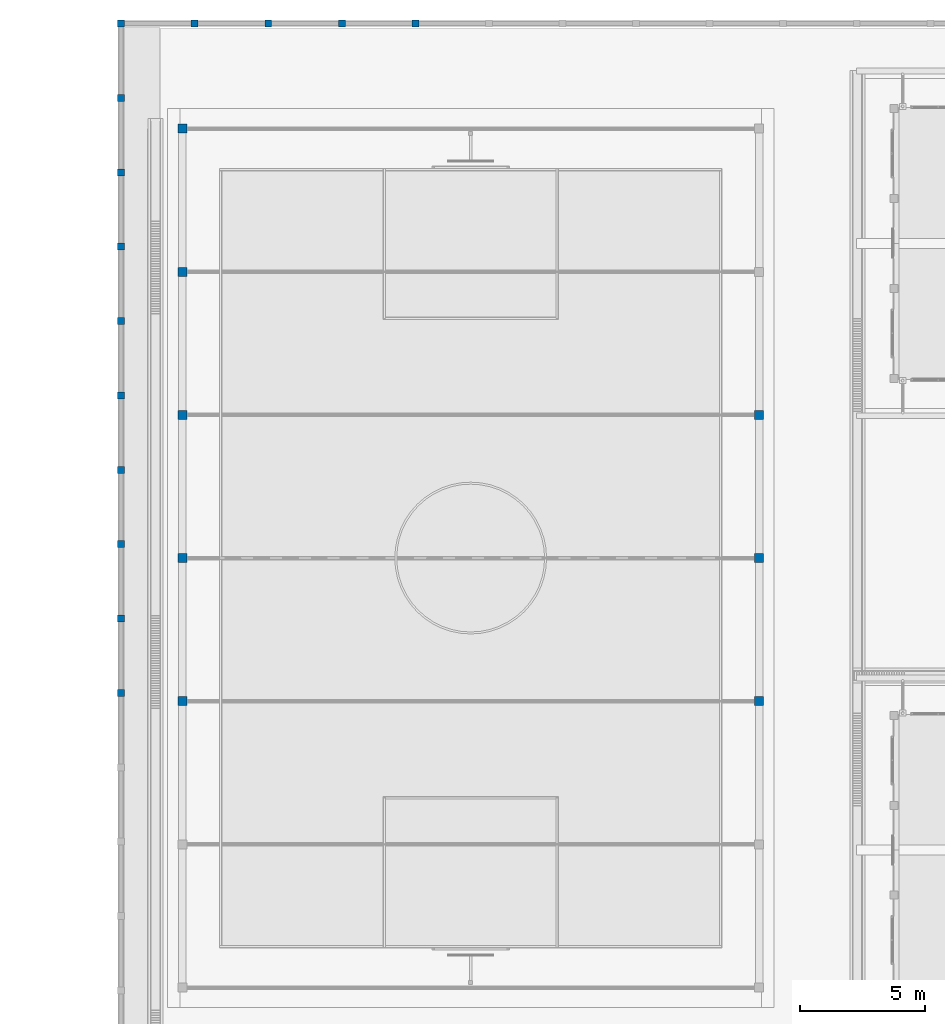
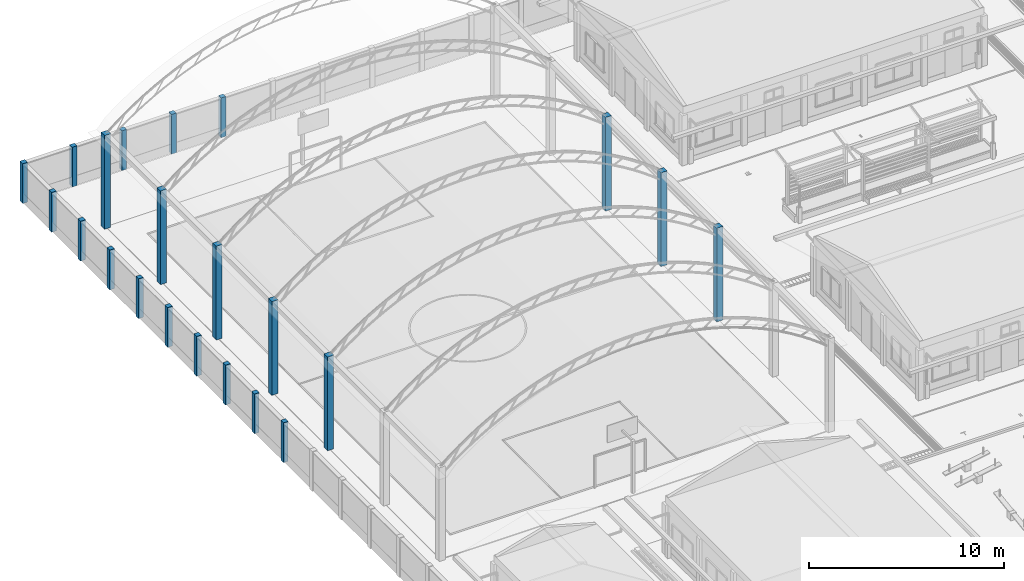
# One storey, part 9 of 151: 23 columns.
"""IFC2X3 building model written with IfcOpenShell, lengths in metres."""

from ifc_helpers import new_model, si_unit, origin, origin_with_axes, place, context, subcontext, project, spatial, faceted_brep, element, save


model = new_model("IFC2X3")

# Units and contexts
model_context = context("Model", 3, precision=1e-05, world=origin_with_axes())
body_context = subcontext(model_context, "Body", "Model", "MODEL_VIEW")
ifc_project = project(units=[si_unit("LENGTHUNIT", "METRE"), si_unit("AREAUNIT", "SQUARE_METRE"), si_unit("VOLUMEUNIT", "CUBIC_METRE"), si_unit("PLANEANGLEUNIT", "RADIAN")], contexts=[model_context])

# Site, building, storey
site_placement = place(None, origin_with_axes())
site = spatial("IfcSite", under=ifc_project, at=site_placement, Name="Predio Los Mangos - Morales, San Martín", CompositionType="ELEMENT")
building_placement = place(site_placement, origin())
building = spatial("IfcBuilding", under=site, at=building_placement, Name="Hogar de Refugio Temporal", CompositionType="ELEMENT")
storey_placement = place(building_placement, origin())
storey = spatial("IfcBuildingStorey", under=building, at=storey_placement, Name="NIVEL 1 (NPT +0.00)", CompositionType="ELEMENT", Elevation=0.0)

# Columns
column_1_placement = place(storey_placement, origin())
element("IfcColumn", 1, at=column_1_placement, inside=storey, Name="columna_losa", ObjectType="Columna", context=body_context, shape_type="Brep", body=[
    faceted_brep([(3.32, 103.8867, 0.12), (3.32, 104.2467, 0.12), (3.68, 104.2467, 0.12), (3.68, 103.8867, 0.12), (3.32, 103.8867, 6.0), (3.68, 103.8867, 6.0), (3.68, 104.2467, 6.0), (3.32, 104.2467, 6.0)], [[[0, 1, 2, 3]], [[4, 5, 6, 7]], [[0, 3, 5, 4]], [[3, 2, 6, 5]], [[2, 1, 7, 6]], [[1, 0, 4, 7]]]),
])
column_2_placement = place(storey_placement, origin())
element("IfcColumn", 2, at=column_2_placement, inside=storey, Name="columna_losa", ObjectType="Columna", context=body_context, shape_type="Brep", body=[
    faceted_brep([(26.42, 103.8867, 0.12), (26.42, 104.2467, 0.12), (26.78, 104.2467, 0.12), (26.78, 103.8867, 0.12), (26.42, 103.8867, 6.0), (26.78, 103.8867, 6.0), (26.78, 104.2467, 6.0), (26.42, 104.2467, 6.0)], [[[0, 1, 2, 3]], [[4, 5, 6, 7]], [[0, 3, 5, 4]], [[3, 2, 6, 5]], [[2, 1, 7, 6]], [[1, 0, 4, 7]]]),
])
column_3_placement = place(storey_placement, origin())
element("IfcColumn", 3, at=column_3_placement, inside=storey, Name="columna_losa", ObjectType="Columna", context=body_context, shape_type="Brep", body=[
    faceted_brep([(3.32, 109.62, 0.12), (3.32, 109.98, 0.12), (3.68, 109.98, 0.12), (3.68, 109.62, 0.12), (3.32, 109.62, 6.0), (3.68, 109.62, 6.0), (3.68, 109.98, 6.0), (3.32, 109.98, 6.0)], [[[0, 1, 2, 3]], [[4, 5, 6, 7]], [[0, 3, 5, 4]], [[3, 2, 6, 5]], [[2, 1, 7, 6]], [[1, 0, 4, 7]]]),
])
column_4_placement = place(storey_placement, origin())
element("IfcColumn", 4, at=column_4_placement, inside=storey, Name="columna_losa", ObjectType="Columna", context=body_context, shape_type="Brep", body=[
    faceted_brep([(26.42, 109.62, 0.12), (26.42, 109.98, 0.12), (26.78, 109.98, 0.12), (26.78, 109.62, 0.12), (26.42, 109.62, 6.0), (26.78, 109.62, 6.0), (26.78, 109.98, 6.0), (26.42, 109.98, 6.0)], [[[0, 1, 2, 3]], [[4, 5, 6, 7]], [[0, 3, 5, 4]], [[3, 2, 6, 5]], [[2, 1, 7, 6]], [[1, 0, 4, 7]]]),
])
column_5_placement = place(storey_placement, origin())
element("IfcColumn", 5, at=column_5_placement, inside=storey, Name="columna_losa", ObjectType="Columna", context=body_context, shape_type="Brep", body=[
    faceted_brep([(3.32, 115.3533, 0.12), (3.32, 115.7133, 0.12), (3.68, 115.7133, 0.12), (3.68, 115.3533, 0.12), (3.32, 115.3533, 6.0), (3.68, 115.3533, 6.0), (3.68, 115.7133, 6.0), (3.32, 115.7133, 6.0)], [[[0, 1, 2, 3]], [[4, 5, 6, 7]], [[0, 3, 5, 4]], [[3, 2, 6, 5]], [[2, 1, 7, 6]], [[1, 0, 4, 7]]]),
])
column_6_placement = place(storey_placement, origin())
element("IfcColumn", 6, at=column_6_placement, inside=storey, Name="columna_losa", ObjectType="Columna", context=body_context, shape_type="Brep", body=[
    faceted_brep([(26.42, 115.3533, 0.12), (26.42, 115.7133, 0.12), (26.78, 115.7133, 0.12), (26.78, 115.3533, 0.12), (26.42, 115.3533, 6.0), (26.78, 115.3533, 6.0), (26.78, 115.7133, 6.0), (26.42, 115.7133, 6.0)], [[[0, 1, 2, 3]], [[4, 5, 6, 7]], [[0, 3, 5, 4]], [[3, 2, 6, 5]], [[2, 1, 7, 6]], [[1, 0, 4, 7]]]),
])
column_7_placement = place(storey_placement, origin())
element("IfcColumn", 7, at=column_7_placement, inside=storey, Name="columna_losa", ObjectType="Columna", context=body_context, shape_type="Brep", body=[
    faceted_brep([(3.32, 121.0867, 0.12), (3.32, 121.4467, 0.12), (3.68, 121.4467, 0.12), (3.68, 121.0867, 0.12), (3.32, 121.0867, 6.0), (3.68, 121.0867, 6.0), (3.68, 121.4467, 6.0), (3.32, 121.4467, 6.0)], [[[0, 1, 2, 3]], [[4, 5, 6, 7]], [[0, 3, 5, 4]], [[3, 2, 6, 5]], [[2, 1, 7, 6]], [[1, 0, 4, 7]]]),
])
column_8_placement = place(storey_placement, origin())
element("IfcColumn", 8, at=column_8_placement, inside=storey, Name="columna_losa", ObjectType="Columna", context=body_context, shape_type="Brep", body=[
    faceted_brep([(3.32, 126.82, 0.12), (3.32, 127.18, 0.12), (3.68, 127.18, 0.12), (3.68, 126.82, 0.12), (3.32, 126.82, 6.0), (3.68, 126.82, 6.0), (3.68, 127.18, 6.0), (3.32, 127.18, 6.0)], [[[0, 1, 2, 3]], [[4, 5, 6, 7]], [[0, 3, 5, 4]], [[3, 2, 6, 5]], [[2, 1, 7, 6]], [[1, 0, 4, 7]]]),
])
column_9_placement = place(storey_placement, origin())
element("IfcColumn", 9, at=column_9_placement, inside=storey, Name="columna_cerco", ObjectType="Columna", context=body_context, shape_type="Brep", body=[
    faceted_brep([(12.975, 131.35, 0.0), (12.975, 131.07, 0.0), (12.695, 131.07, 0.0), (12.695, 131.35, 0.0), (12.975, 131.35, 2.5), (12.695, 131.35, 2.5), (12.695, 131.07, 2.5), (12.975, 131.07, 2.5)], [[[0, 1, 2, 3]], [[4, 5, 6, 7]], [[0, 3, 5, 4]], [[3, 2, 6, 5]], [[2, 1, 7, 6]], [[1, 0, 4, 7]]]),
])
column_10_placement = place(storey_placement, origin())
element("IfcColumn", 10, at=column_10_placement, inside=storey, Name="columna_cerco", ObjectType="Columna", context=body_context, shape_type="Brep", body=[
    faceted_brep([(10.0288, 131.35, 0.0), (10.0288, 131.07, 0.0), (9.7487, 131.07, 0.0), (9.7487, 131.35, 0.0), (10.0288, 131.35, 2.5), (9.7487, 131.35, 2.5), (9.7487, 131.07, 2.5), (10.0288, 131.07, 2.5)], [[[0, 1, 2, 3]], [[4, 5, 6, 7]], [[0, 3, 5, 4]], [[3, 2, 6, 5]], [[2, 1, 7, 6]], [[1, 0, 4, 7]]]),
])
column_11_placement = place(storey_placement, origin())
element("IfcColumn", 11, at=column_11_placement, inside=storey, Name="columna_cerco", ObjectType="Columna", context=body_context, shape_type="Brep", body=[
    faceted_brep([(7.0825, 131.35, 0.0), (7.0825, 131.07, 0.0), (6.8025, 131.07, 0.0), (6.8025, 131.35, 0.0), (7.0825, 131.35, 2.5), (6.8025, 131.35, 2.5), (6.8025, 131.07, 2.5), (7.0825, 131.07, 2.5)], [[[0, 1, 2, 3]], [[4, 5, 6, 7]], [[0, 3, 5, 4]], [[3, 2, 6, 5]], [[2, 1, 7, 6]], [[1, 0, 4, 7]]]),
])
column_12_placement = place(storey_placement, origin())
element("IfcColumn", 12, at=column_12_placement, inside=storey, Name="columna_cerco", ObjectType="Columna", context=body_context, shape_type="Brep", body=[
    faceted_brep([(4.1363, 131.35, 0.0), (4.1363, 131.07, 0.0), (3.8562, 131.07, 0.0), (3.8562, 131.35, 0.0), (4.1363, 131.35, 2.5), (3.8562, 131.35, 2.5), (3.8562, 131.07, 2.5), (4.1363, 131.07, 2.5)], [[[0, 1, 2, 3]], [[4, 5, 6, 7]], [[0, 3, 5, 4]], [[3, 2, 6, 5]], [[2, 1, 7, 6]], [[1, 0, 4, 7]]]),
])
column_13_placement = place(storey_placement, origin())
element("IfcColumn", 13, at=column_13_placement, inside=storey, Name="columna_cerco", ObjectType="Columna", context=body_context, shape_type="Brep", body=[
    faceted_brep([(1.19, 131.35, 0.0), (1.19, 131.07, 0.0), (0.91, 131.07, 0.0), (0.91, 131.35, 0.0), (1.19, 131.35, 2.5), (0.91, 131.35, 2.5), (0.91, 131.07, 2.5), (1.19, 131.07, 2.5)], [[[0, 1, 2, 3]], [[4, 5, 6, 7]], [[0, 3, 5, 4]], [[3, 2, 6, 5]], [[2, 1, 7, 6]], [[1, 0, 4, 7]]]),
])
column_14_placement = place(storey_placement, origin())
element("IfcColumn", 14, at=column_14_placement, inside=storey, Name="columna_cerco", ObjectType="Columna", context=body_context, shape_type="Brep", body=[
    faceted_brep([(0.91, 131.35, 0.0), (1.19, 131.35, 0.0), (1.19, 131.07, 0.0), (0.91, 131.07, 0.0), (0.91, 131.35, 2.5), (0.91, 131.07, 2.5), (1.19, 131.07, 2.5), (1.19, 131.35, 2.5)], [[[0, 1, 2, 3]], [[4, 5, 6, 7]], [[0, 3, 5, 4]], [[3, 2, 6, 5]], [[2, 1, 7, 6]], [[1, 0, 4, 7]]]),
])
column_15_placement = place(storey_placement, origin())
element("IfcColumn", 15, at=column_15_placement, inside=storey, Name="columna_cerco", ObjectType="Columna", context=body_context, shape_type="Brep", body=[
    faceted_brep([(0.91, 128.3708, 0.0), (1.19, 128.3708, 0.0), (1.19, 128.0908, 0.0), (0.91, 128.0908, 0.0), (0.91, 128.3708, 2.5), (0.91, 128.0908, 2.5), (1.19, 128.0908, 2.5), (1.19, 128.3708, 2.5)], [[[0, 1, 2, 3]], [[4, 5, 6, 7]], [[0, 3, 5, 4]], [[3, 2, 6, 5]], [[2, 1, 7, 6]], [[1, 0, 4, 7]]]),
])
column_16_placement = place(storey_placement, origin())
element("IfcColumn", 16, at=column_16_placement, inside=storey, Name="columna_cerco", ObjectType="Columna", context=body_context, shape_type="Brep", body=[
    faceted_brep([(0.91, 125.3916, 0.0), (1.19, 125.3916, 0.0), (1.19, 125.1116, 0.0), (0.91, 125.1116, 0.0), (0.91, 125.3916, 2.5), (0.91, 125.1116, 2.5), (1.19, 125.1116, 2.5), (1.19, 125.3916, 2.5)], [[[0, 1, 2, 3]], [[4, 5, 6, 7]], [[0, 3, 5, 4]], [[3, 2, 6, 5]], [[2, 1, 7, 6]], [[1, 0, 4, 7]]]),
])
column_17_placement = place(storey_placement, origin())
element("IfcColumn", 17, at=column_17_placement, inside=storey, Name="columna_cerco", ObjectType="Columna", context=body_context, shape_type="Brep", body=[
    faceted_brep([(0.91, 122.4124, 0.0), (1.19, 122.4124, 0.0), (1.19, 122.1324, 0.0), (0.91, 122.1324, 0.0), (0.91, 122.4124, 2.5), (0.91, 122.1324, 2.5), (1.19, 122.1324, 2.5), (1.19, 122.4124, 2.5)], [[[0, 1, 2, 3]], [[4, 5, 6, 7]], [[0, 3, 5, 4]], [[3, 2, 6, 5]], [[2, 1, 7, 6]], [[1, 0, 4, 7]]]),
])
column_18_placement = place(storey_placement, origin())
element("IfcColumn", 18, at=column_18_placement, inside=storey, Name="columna_cerco", ObjectType="Columna", context=body_context, shape_type="Brep", body=[
    faceted_brep([(0.91, 119.4332, 0.0), (1.19, 119.4332, 0.0), (1.19, 119.1532, 0.0), (0.91, 119.1532, 0.0), (0.91, 119.4332, 2.5), (0.91, 119.1532, 2.5), (1.19, 119.1532, 2.5), (1.19, 119.4332, 2.5)], [[[0, 1, 2, 3]], [[4, 5, 6, 7]], [[0, 3, 5, 4]], [[3, 2, 6, 5]], [[2, 1, 7, 6]], [[1, 0, 4, 7]]]),
])
column_19_placement = place(storey_placement, origin())
element("IfcColumn", 19, at=column_19_placement, inside=storey, Name="columna_cerco", ObjectType="Columna", context=body_context, shape_type="Brep", body=[
    faceted_brep([(0.91, 116.4539, 0.0), (1.19, 116.4539, 0.0), (1.19, 116.174, 0.0), (0.91, 116.174, 0.0), (0.91, 116.4539, 2.5), (0.91, 116.174, 2.5), (1.19, 116.174, 2.5), (1.19, 116.4539, 2.5)], [[[0, 1, 2, 3]], [[4, 5, 6, 7]], [[0, 3, 5, 4]], [[3, 2, 6, 5]], [[2, 1, 7, 6]], [[1, 0, 4, 7]]]),
])
column_20_placement = place(storey_placement, origin())
element("IfcColumn", 20, at=column_20_placement, inside=storey, Name="columna_cerco", ObjectType="Columna", context=body_context, shape_type="Brep", body=[
    faceted_brep([(0.91, 113.4747, 0.0), (1.19, 113.4747, 0.0), (1.19, 113.1947, 0.0), (0.91, 113.1947, 0.0), (0.91, 113.4747, 2.5), (0.91, 113.1947, 2.5), (1.19, 113.1947, 2.5), (1.19, 113.4747, 2.5)], [[[0, 1, 2, 3]], [[4, 5, 6, 7]], [[0, 3, 5, 4]], [[3, 2, 6, 5]], [[2, 1, 7, 6]], [[1, 0, 4, 7]]]),
])
column_21_placement = place(storey_placement, origin())
element("IfcColumn", 21, at=column_21_placement, inside=storey, Name="columna_cerco", ObjectType="Columna", context=body_context, shape_type="Brep", body=[
    faceted_brep([(0.91, 110.4955, 0.0), (1.19, 110.4955, 0.0), (1.19, 110.2155, 0.0), (0.91, 110.2155, 0.0), (0.91, 110.4955, 2.5), (0.91, 110.2155, 2.5), (1.19, 110.2155, 2.5), (1.19, 110.4955, 2.5)], [[[0, 1, 2, 3]], [[4, 5, 6, 7]], [[0, 3, 5, 4]], [[3, 2, 6, 5]], [[2, 1, 7, 6]], [[1, 0, 4, 7]]]),
])
column_22_placement = place(storey_placement, origin())
element("IfcColumn", 22, at=column_22_placement, inside=storey, Name="columna_cerco", ObjectType="Columna", context=body_context, shape_type="Brep", body=[
    faceted_brep([(0.91, 107.5163, 0.0), (1.19, 107.5163, 0.0), (1.19, 107.2363, 0.0), (0.91, 107.2363, 0.0), (0.91, 107.5163, 2.5), (0.91, 107.2363, 2.5), (1.19, 107.2363, 2.5), (1.19, 107.5163, 2.5)], [[[0, 1, 2, 3]], [[4, 5, 6, 7]], [[0, 3, 5, 4]], [[3, 2, 6, 5]], [[2, 1, 7, 6]], [[1, 0, 4, 7]]]),
])
column_23_placement = place(storey_placement, origin())
element("IfcColumn", 23, at=column_23_placement, inside=storey, Name="columna_cerco", ObjectType="Columna", context=body_context, shape_type="Brep", body=[
    faceted_brep([(0.91, 104.5371, 0.0), (1.19, 104.5371, 0.0), (1.19, 104.2571, 0.0), (0.91, 104.2571, 0.0), (0.91, 104.5371, 2.5), (0.91, 104.2571, 2.5), (1.19, 104.2571, 2.5), (1.19, 104.5371, 2.5)], [[[0, 1, 2, 3]], [[4, 5, 6, 7]], [[0, 3, 5, 4]], [[3, 2, 6, 5]], [[2, 1, 7, 6]], [[1, 0, 4, 7]]]),
])

save(model, "model.ifc")
